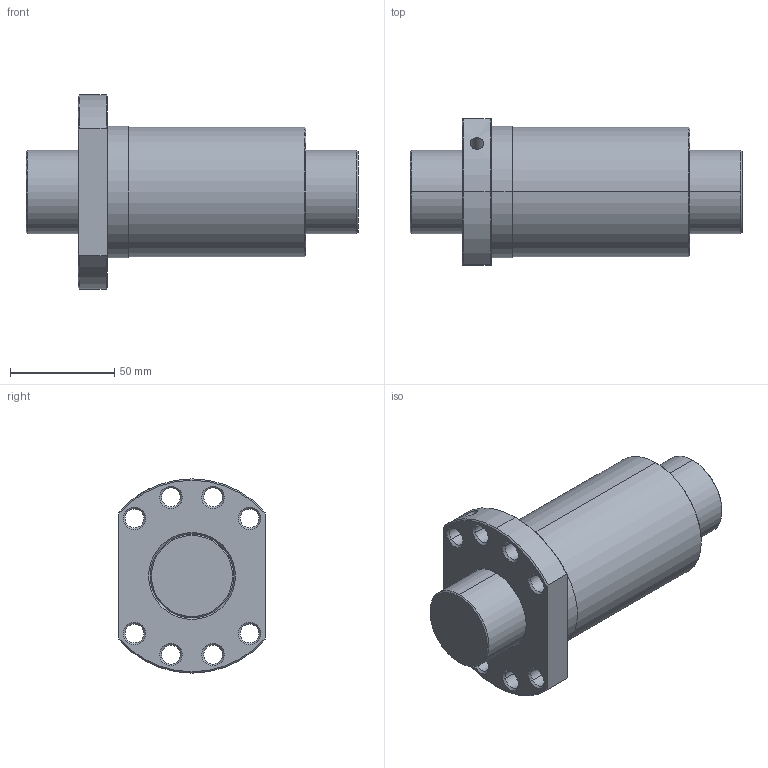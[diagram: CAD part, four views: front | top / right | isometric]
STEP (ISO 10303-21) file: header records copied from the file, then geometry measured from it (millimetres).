
FILE_DESCRIPTION(('no description'),'unknown implementation level');
FILE_NAME('R40_05T5_DDB_159_159_0_023_59.stp',' ',('HIWIN GmbH'),('CADClick - KiM GmbH - www.kimweb.de'),'unknown preprocess','ACIS','unknown authorization');
FILE_SCHEMA(('CONFIG_CONTROL_DESIGN'));
Length unit declared in the file: millimetre
Products named in the file (2): 1; 2
Bounding box: 159 x 70 x 93 mm (x, y, z)
Volume: 424154.2 mm3; surface area: 69641.6 mm2
Topology: 2 solids, 2 shells, 90 faces, 204 edges, 119 vertices
Faces by surface type: cone 52, cylinder 30, plane 8
Entity records: 2677 total; most frequent: CARTESIAN_POINT 496, DIRECTION 484, ORIENTED_EDGE 404, EDGE_CURVE 202, AXIS2_PLACEMENT_3D 200, VERTEX_POINT 119, EDGE_LOOP 111, CIRCLE 108
